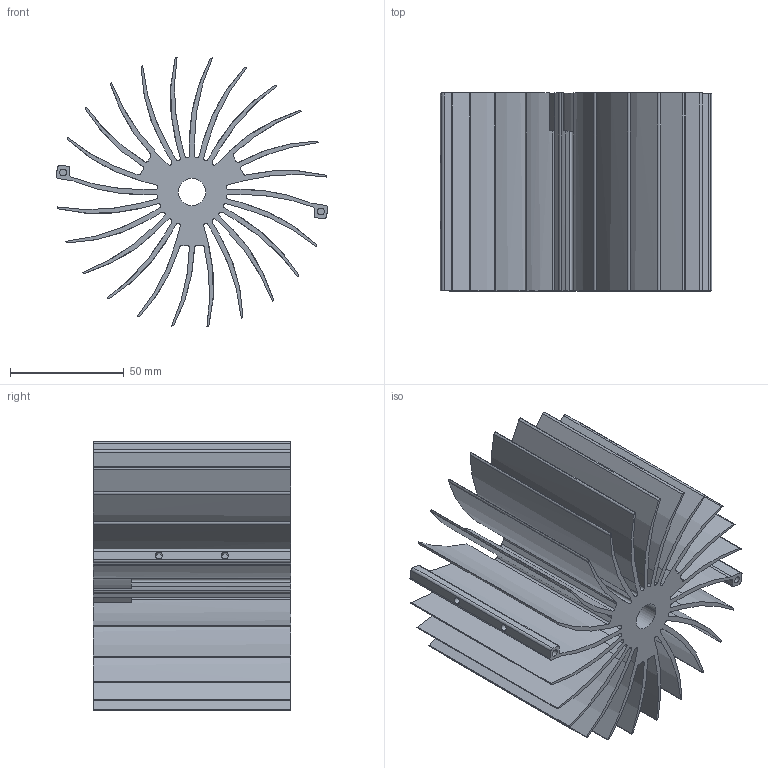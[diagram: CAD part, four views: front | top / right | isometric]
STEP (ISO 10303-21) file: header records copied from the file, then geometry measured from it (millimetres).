
FILE_DESCRIPTION((''),'2;1');
FILE_NAME('X01008','2012-09-17T',('Joel'),(''),'PRO/ENGINEER BY PARAMETRIC TECHNOLOGY CORPORATION, 2012230','PRO/ENGINEER BY PARAMETRIC TECHNOLOGY CORPORATION, 2012230','');
FILE_SCHEMA(('CONFIG_CONTROL_DESIGN'));
Length unit declared in the file: millimetre
Products named in the file (1): X01008
Bounding box: 119.24 x 86.9 x 118.31 mm (x, y, z)
Volume: 217180.4 mm3; surface area: 187788.6 mm2
Topology: 1 solids, 1 shells, 267 faces, 762 edges, 508 vertices
Faces by surface type: cylinder 180, plane 87
Entity records: 8966 total; most frequent: DIRECTION 1704, CARTESIAN_POINT 1537, ORIENTED_EDGE 1524, EDGE_CURVE 762, AXIS2_PLACEMENT_3D 675, VERTEX_POINT 508, CIRCLE 408, VECTOR 354
